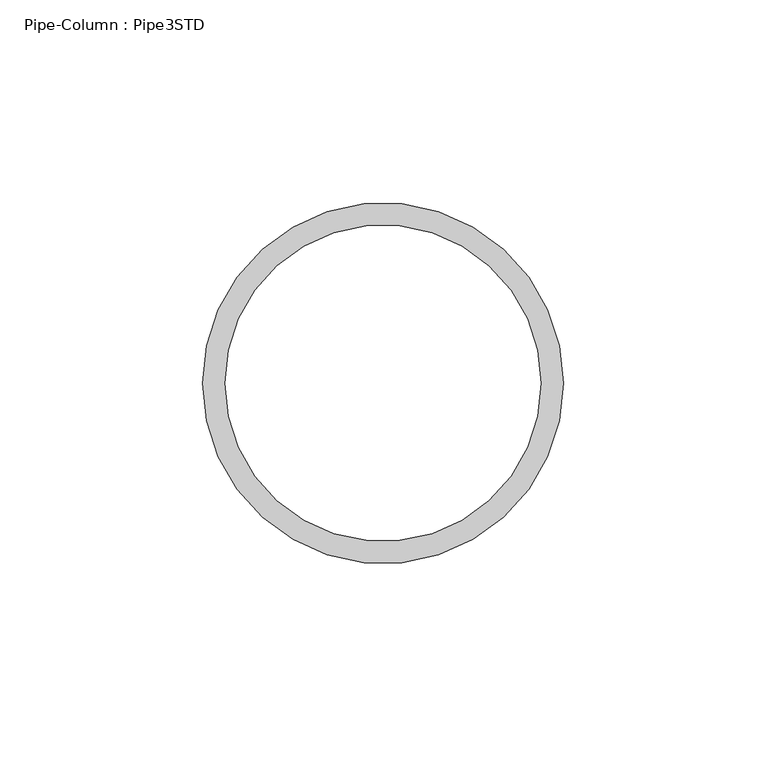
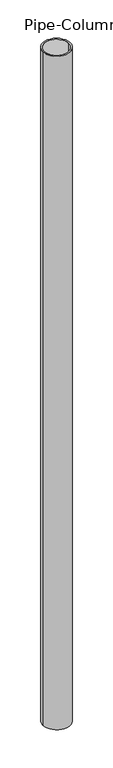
"""IFC4 building model written with IfcOpenShell, lengths in millimetres: column geometry, Pipe-Column : Pipe3STD."""

import ifcopenshell
import ifcopenshell.guid

model = None  # the IFC model being written
_history = None  # IfcOwnerHistory: only IFC2X3 demands one
_inside = {}  # id of a spatial element -> (the spatial element, [elements in it])
_under = {}  # id of a project, library or spatial element -> (it, [spatial elements below it])
_declared = {}  # id of a project -> (the project, [libraries it declares])
_typed = {}  # id of a type object -> (the type object, [elements of that type])
_made_of = {}  # id of a material, layer set ... -> (it, [elements and type objects made of it])


def new_model(schema):
    """Start an empty IFC model of exactly this schema.

    Asked for "IFC4X3", IfcOpenShell would pick the latest addendum, in which some entities
    have other attributes; the version numbers below select the first issue.
    IFC2X3 requires an IfcOwnerHistory on every rooted entity: one is made here for all.
    """
    global model, _history
    if schema == "IFC4X3":
        model = ifcopenshell.file(schema_version=(4, 3, 0, 0))
    else:
        model = ifcopenshell.file(schema=schema)
    _inside.clear()
    _under.clear()
    _declared.clear()
    _typed.clear()
    _made_of.clear()
    _history = None
    if model.schema == "IFC2X3":
        org = make("IfcOrganization", Name="unknown")
        user = make(
            "IfcPersonAndOrganization",
            ThePerson=make("IfcPerson", FamilyName="unknown"),
            TheOrganization=org,
        )
        app = make(
            "IfcApplication",
            ApplicationDeveloper=org,
            Version="unknown",
            ApplicationFullName="unknown",
            ApplicationIdentifier="unknown",
        )
        _history = make(
            "IfcOwnerHistory",
            OwningUser=user,
            OwningApplication=app,
            ChangeAction="ADDED",
            CreationDate=0,
        )
    return model


def make(cls, **values):
    """One entity of the class cls with the attributes given. An attribute that is None is left unset."""
    return model.create_entity(
        cls, **{name: value for name, value in values.items() if value is not None}
    )


def rooted(cls, **values):
    """An entity with a GlobalId (a new one), such as an element, a storey or a relation."""
    return make(cls, GlobalId=ifcopenshell.guid.new(), OwnerHistory=_history, **values)


def si_unit(unit_type, name, prefix=None):
    """IfcSIUnit, for example si_unit("LENGTHUNIT", "METRE", prefix="MILLI")."""
    return make("IfcSIUnit", UnitType=unit_type, Prefix=prefix, Name=name)


def assignment(units):
    """IfcUnitAssignment: the units of a project."""
    return None if units is None else make("IfcUnitAssignment", Units=units)


def point(xyz):
    """IfcCartesianPoint."""
    return None if xyz is None else make("IfcCartesianPoint", Coordinates=xyz)


def direction(xyz):
    """IfcDirection."""
    return None if xyz is None else make("IfcDirection", DirectionRatios=xyz)


def frame(location, z_axis=None, x_axis=None):
    """IfcAxis2Placement3D, a coordinate frame: its origin and axes. An axis left out is left unset."""
    return make(
        "IfcAxis2Placement3D",
        Location=point(location),
        Axis=direction(z_axis),
        RefDirection=direction(x_axis),
    )


def frame_2d(location, x_axis=None):
    """IfcAxis2Placement2D, a coordinate frame in the plane: its origin and x axis."""
    return make(
        "IfcAxis2Placement2D", Location=point(location), RefDirection=direction(x_axis)
    )


def origin():
    """The frame at (0, 0, 0) with its axes left unset."""
    return frame((0.0, 0.0, 0.0))


def origin_2d():
    """The frame at (0, 0) in the plane with its x axis left unset."""
    return frame_2d((0.0, 0.0))


def place(relative_to, where):
    """IfcLocalPlacement: puts the frame where relative to a parent placement (None: the world)."""
    return make(
        "IfcLocalPlacement", PlacementRelTo=relative_to, RelativePlacement=where
    )


def context(
    kind, dimensions, precision=None, world=None, true_north=None, identifier=None
):
    """IfcGeometricRepresentationContext, for example the 3D "Model" context."""
    return make(
        "IfcGeometricRepresentationContext",
        ContextIdentifier=identifier,
        ContextType=kind,
        CoordinateSpaceDimension=dimensions,
        Precision=precision,
        WorldCoordinateSystem=world,
        TrueNorth=true_north,
    )


def project(units=None, contexts=None):
    """IfcProject with its units and contexts."""
    return rooted(
        "IfcProject",
        Name="project",
        RepresentationContexts=contexts,
        UnitsInContext=assignment(units),
    )


def spatial(cls, under=None, at=None, **own):
    """A site, building, storey or space (cls), placed at a placement, below another one or the project."""
    s = rooted(cls, ObjectPlacement=at, **own)
    if under is not None:
        _under.setdefault(under.id(), (under, []))[1].append(s)
    return s


def circle_curve(where, radius):
    """IfcCircle in the frame where."""
    return make("IfcCircle", Position=where, Radius=radius)


def trimmed(basis, trim1, trim2, sense, master):
    """IfcTrimmedCurve: the piece of a basis curve between two trims."""
    return make(
        "IfcTrimmedCurve",
        BasisCurve=basis,
        Trim1=trim1,
        Trim2=trim2,
        SenseAgreement=sense,
        MasterRepresentation=master,
    )


def segment(curve, same_sense, transition):
    """IfcCompositeCurveSegment."""
    return make(
        "IfcCompositeCurveSegment",
        Transition=transition,
        SameSense=same_sense,
        ParentCurve=curve,
    )


def composite_curve(segments, self_intersect=None):
    """IfcCompositeCurve: segments joined end to end."""
    return make("IfcCompositeCurve", Segments=segments, SelfIntersect=self_intersect)


def outline(outer, holes=None, kind="AREA"):
    """IfcArbitraryClosedProfileDef: a profile drawn as a closed curve; with holes, ...WithVoids."""
    if holes is None:
        return make("IfcArbitraryClosedProfileDef", ProfileType=kind, OuterCurve=outer)
    return make(
        "IfcArbitraryProfileDefWithVoids",
        ProfileType=kind,
        OuterCurve=outer,
        InnerCurves=holes,
    )


def extrude(swept, where, along, depth):
    """IfcExtrudedAreaSolid: the profile swept, set in the frame where, extruded along a direction by depth."""
    return make(
        "IfcExtrudedAreaSolid",
        SweptArea=swept,
        Position=where,
        ExtrudedDirection=direction(along),
        Depth=depth,
    )


def shape(context_of_items, identifier, shape_type, items):
    """IfcShapeRepresentation: the items that make up one representation, for example the "Body"."""
    return make(
        "IfcShapeRepresentation",
        ContextOfItems=context_of_items,
        RepresentationIdentifier=identifier,
        RepresentationType=shape_type,
        Items=items,
    )


def source(mapping_origin, context_of_items, identifier, shape_type, items):
    """IfcRepresentationMap: a shape defined once, which mapped items show again and again."""
    return make(
        "IfcRepresentationMap",
        MappingOrigin=mapping_origin,
        MappedRepresentation=shape(context_of_items, identifier, shape_type, items),
    )


def transform(
    local_origin,
    x_axis=None,
    y_axis=None,
    z_axis=None,
    scale=None,
    scale2=None,
    scale3=None,
    uniform=True,
):
    """IfcCartesianTransformationOperator3D, or its non-uniform kind. x_axis, y_axis, z_axis: its Axis1, 2, 3."""
    if uniform:
        return make(
            "IfcCartesianTransformationOperator3D",
            Axis1=direction(x_axis),
            Axis2=direction(y_axis),
            LocalOrigin=point(local_origin),
            Scale=scale,
            Axis3=direction(z_axis),
        )
    return make(
        "IfcCartesianTransformationOperator3DnonUniform",
        Axis1=direction(x_axis),
        Axis2=direction(y_axis),
        LocalOrigin=point(local_origin),
        Scale=scale,
        Axis3=direction(z_axis),
        Scale2=scale2,
        Scale3=scale3,
    )


def mapped(mapping_source, mapping_target):
    """IfcMappedItem: shows the shape of a source again, moved by a transform."""
    return make(
        "IfcMappedItem", MappingSource=mapping_source, MappingTarget=mapping_target
    )


def made_of(thing, what):
    """Note that an element or type object is made of a material, layer set ...; save() writes the relation."""
    if what is not None:
        _made_of.setdefault(what.id(), (what, []))[1].append(thing)
    return thing


def element(
    cls,
    number,
    at=None,
    inside=None,
    cuts=None,
    type_object=None,
    material=None,
    context=None,
    identifier="Body",
    shape_type=None,
    held_by="IfcProductDefinitionShape",
    body=None,
    shapes=None,
    **own,
):
    """One element of the class cls, such as IfcWall. Its Tag is "e" and its number.

    at: its placement. inside: the storey or other place that contains it. cuts: it is an
    opening in that element (IfcRelVoidsElement). A single representation is given by context,
    identifier, shape_type and body (its items); several are given by shapes. held_by: the class
    of the entity that holds the representations. save() writes the other relations.
    """
    e = rooted(cls, Tag="e%d" % number, ObjectPlacement=at, **own)
    if body is not None:
        shapes = [shape(context, identifier, shape_type, body)]
    if shapes is not None:
        e.Representation = make(held_by, Representations=shapes)
    if inside is not None:
        _inside.setdefault(inside.id(), (inside, []))[1].append(e)
    if cuts is not None:
        rooted(
            "IfcRelVoidsElement", RelatingBuildingElement=cuts, RelatedOpeningElement=e
        )
    if type_object is not None:
        _typed.setdefault(type_object.id(), (type_object, []))[1].append(e)
    return made_of(e, material)


def aggregate(whole, parts):
    """IfcRelAggregates: a whole, such as a stair, and the parts it consists of."""
    return rooted("IfcRelAggregates", RelatingObject=whole, RelatedObjects=parts)


def save(model, path):
    """Write the relations noted so far, then the file.

    IfcRelAggregates (storeys below a building ...), IfcRelContainedInSpatialStructure (elements
    in a storey), IfcRelDefinesByType, IfcRelAssociatesMaterial and IfcRelDeclares: one each for
    every whole, place, type object, material and project.
    """
    for whole, parts in _under.values():
        aggregate(whole, parts)
    for where, things in _inside.values():
        rooted(
            "IfcRelContainedInSpatialStructure",
            RelatedElements=things,
            RelatingStructure=where,
        )
    for kind, things in _typed.values():
        rooted("IfcRelDefinesByType", RelatedObjects=things, RelatingType=kind)
    for what, things in _made_of.values():
        rooted("IfcRelAssociatesMaterial", RelatedObjects=things, RelatingMaterial=what)
    for by, libraries in _declared.values():
        rooted("IfcRelDeclares", RelatingContext=by, RelatedDefinitions=libraries)
    model.write(path)


def pipe_column_pipe3std_9084b5a9(model_context):
    return source(origin(), model_context, "Body", "SweptSolid", [
        extrude(outline(composite_curve([segment(trimmed(circle_curve(origin_2d(), 44.45), [point((-44.45, 0.0))], [point((44.45, 0.0))], False, "CARTESIAN"), True, "CONTINUOUS"), segment(trimmed(circle_curve(origin_2d(), 44.45), [point((44.45, 0.0))], [point((-44.45, 0.0))], False, "CARTESIAN"), True, "CONTINUOUS")], self_intersect=False), holes=[composite_curve([segment(trimmed(circle_curve(origin_2d(), 38.9636), [point((-38.9636, 0.0))], [point((38.9636, 0.0))], True, "CARTESIAN"), True, "CONTINUOUS"), segment(trimmed(circle_curve(origin_2d(), 38.9636), [point((38.9636, 0.0))], [point((-38.9636, 0.0))], True, "CARTESIAN"), True, "CONTINUOUS")], self_intersect=False)]), frame((0.0, 0.0, -2266.95), z_axis=(0.0, 0.0, 1.0), x_axis=(1.0, 0.0, 0.0)), (0.0, 0.0, 1.0), 2313.1859375),
    ])


if __name__ == "__main__":
    model = new_model("IFC4")
    model_context = context("Model", 3, world=origin())
    ifc_project = project(units=[si_unit("LENGTHUNIT", "METRE", prefix="MILLI")], contexts=[model_context])
    site = spatial("IfcSite", under=ifc_project)
    building = spatial("IfcBuilding", under=site)
    placement = place(None, origin())
    pipe_column_pipe3std_shape = pipe_column_pipe3std_9084b5a9(model_context)
    element("IfcColumn", 1, ObjectType="Pipe-Column : Pipe3STD", at=placement, inside=building, context=model_context, shape_type="MappedRepresentation", body=[
        mapped(pipe_column_pipe3std_shape, transform((0.0, 0.0, 0.0), x_axis=(1.0, 0.0, 0.0), y_axis=(0.0, 1.0, 0.0), z_axis=(0.0, 0.0, 1.0))),
    ])
    save(model, "model.ifc")
